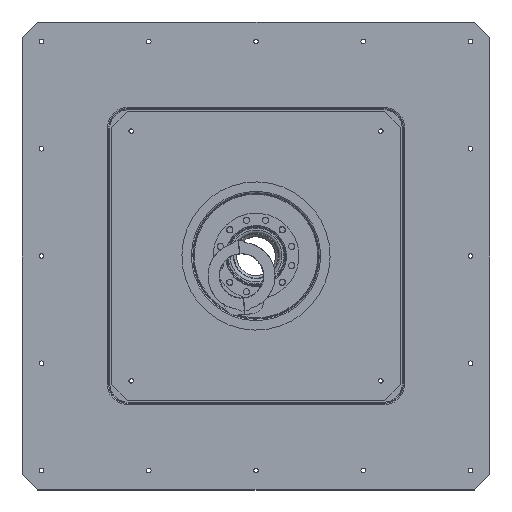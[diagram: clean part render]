
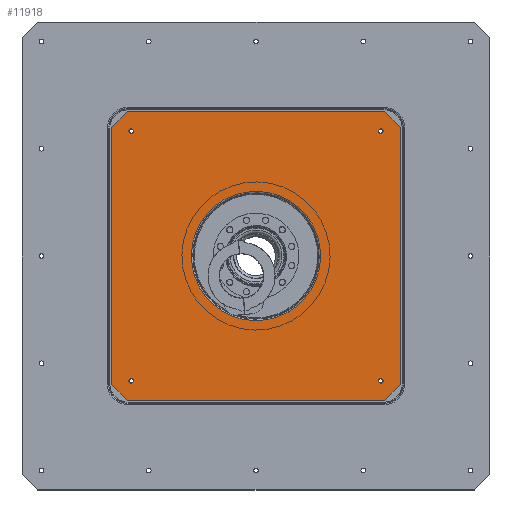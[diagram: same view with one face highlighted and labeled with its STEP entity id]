
A CAD part, top view. The second image highlights one B-rep face of the part: STEP entity #11918.
In plain terms, the highlighted planar face has unit normal (0, 0, 1).
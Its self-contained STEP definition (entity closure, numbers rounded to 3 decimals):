
#882=LINE('',#16905,#1323);
#888=LINE('',#16916,#1329);
#889=LINE('',#16919,#1330);
#894=LINE('',#16928,#1335);
#895=LINE('',#16931,#1336);
#900=LINE('',#16940,#1341);
#903=LINE('',#16946,#1344);
#904=LINE('',#16948,#1345);
#1323=VECTOR('',#13969,28.284);
#1329=VECTOR('',#13977,330.);
#1330=VECTOR('',#13980,330.);
#1335=VECTOR('',#13987,28.284);
#1336=VECTOR('',#13990,330.);
#1341=VECTOR('',#13997,28.284);
#1344=VECTOR('',#14002,330.);
#1345=VECTOR('',#14005,28.284);
#2032=PLANE('',#12681);
#2230=FACE_BOUND('',#3290,.T.);
#2231=FACE_BOUND('',#3291,.T.);
#2232=FACE_BOUND('',#3292,.T.);
#2233=FACE_BOUND('',#3293,.T.);
#2234=FACE_BOUND('',#3294,.T.);
#2566=FACE_OUTER_BOUND('',#3289,.T.);
#3289=EDGE_LOOP('',(#7835,#7836,#7837,#7838,#7839,#7840,#7841,#7842));
#3290=EDGE_LOOP('',(#7843));
#3291=EDGE_LOOP('',(#7844));
#3292=EDGE_LOOP('',(#7845));
#3293=EDGE_LOOP('',(#7846));
#3294=EDGE_LOOP('',(#7847));
#4268=CIRCLE('',#12628,82.824);
#4294=CIRCLE('',#12682,3.);
#4295=CIRCLE('',#12683,3.);
#4296=CIRCLE('',#12684,3.);
#4297=CIRCLE('',#12685,3.);
#4865=VERTEX_POINT('',#16840);
#4887=VERTEX_POINT('',#16903);
#4888=VERTEX_POINT('',#16904);
#4892=VERTEX_POINT('',#16914);
#4893=VERTEX_POINT('',#16918);
#4896=VERTEX_POINT('',#16926);
#4897=VERTEX_POINT('',#16930);
#4900=VERTEX_POINT('',#16938);
#4902=VERTEX_POINT('',#16944);
#4907=VERTEX_POINT('',#16960);
#4908=VERTEX_POINT('',#16962);
#4909=VERTEX_POINT('',#16964);
#4910=VERTEX_POINT('',#16966);
#6067=EDGE_CURVE('',#4865,#4865,#4268,.T.);
#6089=EDGE_CURVE('',#4887,#4888,#882,.T.);
#6095=EDGE_CURVE('',#4888,#4892,#888,.T.);
#6096=EDGE_CURVE('',#4893,#4887,#889,.T.);
#6101=EDGE_CURVE('',#4892,#4896,#894,.T.);
#6102=EDGE_CURVE('',#4896,#4897,#895,.T.);
#6107=EDGE_CURVE('',#4897,#4900,#900,.T.);
#6110=EDGE_CURVE('',#4900,#4902,#903,.T.);
#6111=EDGE_CURVE('',#4902,#4893,#904,.T.);
#6117=EDGE_CURVE('',#4907,#4907,#4294,.T.);
#6118=EDGE_CURVE('',#4908,#4908,#4295,.T.);
#6119=EDGE_CURVE('',#4909,#4909,#4296,.T.);
#6120=EDGE_CURVE('',#4910,#4910,#4297,.T.);
#7835=ORIENTED_EDGE('',*,*,#6096,.T.);
#7836=ORIENTED_EDGE('',*,*,#6089,.T.);
#7837=ORIENTED_EDGE('',*,*,#6095,.T.);
#7838=ORIENTED_EDGE('',*,*,#6101,.T.);
#7839=ORIENTED_EDGE('',*,*,#6102,.T.);
#7840=ORIENTED_EDGE('',*,*,#6107,.T.);
#7841=ORIENTED_EDGE('',*,*,#6110,.T.);
#7842=ORIENTED_EDGE('',*,*,#6111,.T.);
#7843=ORIENTED_EDGE('',*,*,#6067,.F.);
#7844=ORIENTED_EDGE('',*,*,#6117,.F.);
#7845=ORIENTED_EDGE('',*,*,#6118,.F.);
#7846=ORIENTED_EDGE('',*,*,#6119,.F.);
#7847=ORIENTED_EDGE('',*,*,#6120,.F.);
#11918=ADVANCED_FACE('',(#2566,#2230,#2231,#2232,#2233,#2234),#2032,.T.);
#12628=AXIS2_PLACEMENT_3D('',#16841,#13887,#13888);
#12681=AXIS2_PLACEMENT_3D('',#16959,#14017,#14018);
#12682=AXIS2_PLACEMENT_3D('',#16961,#14019,#14020);
#12683=AXIS2_PLACEMENT_3D('',#16963,#14021,#14022);
#12684=AXIS2_PLACEMENT_3D('',#16965,#14023,#14024);
#12685=AXIS2_PLACEMENT_3D('',#16967,#14025,#14026);
#13887=DIRECTION('center_axis',(0.,0.,
1.));
#13888=DIRECTION('ref_axis',(-0.479,0.878,0.));
#13969=DIRECTION('',(-0.707,-0.707,0.));
#13977=DIRECTION('',(0.,-1.,0.));
#13980=DIRECTION('',(-1.,0.,0.));
#13987=DIRECTION('',(0.707,-0.707,0.));
#13990=DIRECTION('',(1.,0.,0.));
#13997=DIRECTION('',(0.707,0.707,0.));
#14002=DIRECTION('',(0.,1.,0.));
#14005=DIRECTION('',(-0.707,0.707,0.));
#14017=DIRECTION('center_axis',(0.,0.,
1.));
#14018=DIRECTION('ref_axis',(1.,0.,0.));
#14019=DIRECTION('center_axis',(0.,0.,
1.));
#14020=DIRECTION('ref_axis',(1.,0.,0.));
#14021=DIRECTION('center_axis',(0.,0.,
1.));
#14022=DIRECTION('ref_axis',(1.,0.,0.));
#14023=DIRECTION('center_axis',(0.,0.,
1.));
#14024=DIRECTION('ref_axis',(1.,0.,0.));
#14025=DIRECTION('center_axis',(0.,0.,
1.));
#14026=DIRECTION('ref_axis',(1.,0.,0.));
#16840=CARTESIAN_POINT('',(-39.708,72.685,0.));
#16841=CARTESIAN_POINT('Origin',(0.,0.,
0.));
#16903=CARTESIAN_POINT('',(-165.,185.,0.));
#16904=CARTESIAN_POINT('',(-185.,165.,0.));
#16905=CARTESIAN_POINT('',(-165.,185.,0.));
#16914=CARTESIAN_POINT('',(-185.,-165.,0.));
#16916=CARTESIAN_POINT('',(-185.,165.,0.));
#16918=CARTESIAN_POINT('',(165.,185.,0.));
#16919=CARTESIAN_POINT('',(165.,185.,0.));
#16926=CARTESIAN_POINT('',(-165.,-185.,0.));
#16928=CARTESIAN_POINT('',(-185.,-165.,0.));
#16930=CARTESIAN_POINT('',(165.,-185.,0.));
#16931=CARTESIAN_POINT('',(-165.,-185.,0.));
#16938=CARTESIAN_POINT('',(185.,-165.,0.));
#16940=CARTESIAN_POINT('',(165.,-185.,0.));
#16944=CARTESIAN_POINT('',(185.,165.,0.));
#16946=CARTESIAN_POINT('',(185.,-165.,0.));
#16948=CARTESIAN_POINT('',(185.,165.,0.));
#16959=CARTESIAN_POINT('Origin',(0.,82.824,
0.));
#16960=CARTESIAN_POINT('',(163.,-160.,0.));
#16961=CARTESIAN_POINT('Origin',(160.,-160.,0.));
#16962=CARTESIAN_POINT('',(163.,160.,0.));
#16963=CARTESIAN_POINT('Origin',(160.,160.,0.));
#16964=CARTESIAN_POINT('',(-157.,160.,0.));
#16965=CARTESIAN_POINT('Origin',(-160.,160.,0.));
#16966=CARTESIAN_POINT('',(-157.,-160.,0.));
#16967=CARTESIAN_POINT('Origin',(-160.,-160.,0.));
